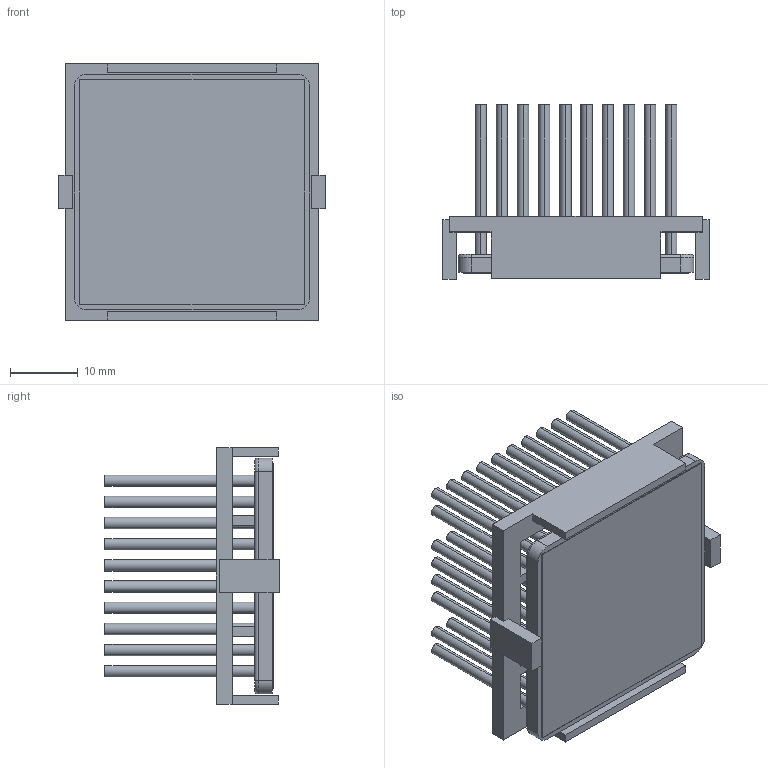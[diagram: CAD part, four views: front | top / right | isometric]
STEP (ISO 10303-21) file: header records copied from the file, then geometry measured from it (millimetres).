
FILE_DESCRIPTION (( 'STEP AP214' ), '1' );
FILE_NAME ('INM35002-25P-2.6O.STEP', '2023-02-20T23:58:56', ( '' ), ( '' ), 'SwSTEP 2.0', 'SolidWorks 2020', '' );
FILE_SCHEMA (( 'AUTOMOTIVE_DESIGN' ));
Length unit declared in the file: inch
Products named in the file (1): INM35002-25P-2.6O
Bounding box: 39.2 x 25.6 x 37.7 mm (x, y, z)
Volume: 9535 mm3; surface area: 18358.7 mm2
Topology: 3 solids, 3 shells, 354 faces, 760 edges, 504 vertices
Faces by surface type: cylinder 192, plane 158, torus 4
Entity records: 14416 total; most frequent: DIRECTION 1858, CARTESIAN_POINT 1619, ORIENTED_EDGE 1520, EDGE_CURVE 760, AXIS2_PLACEMENT_3D 743, VERTEX_POINT 504, EDGE_LOOP 448, CIRCLE 388
